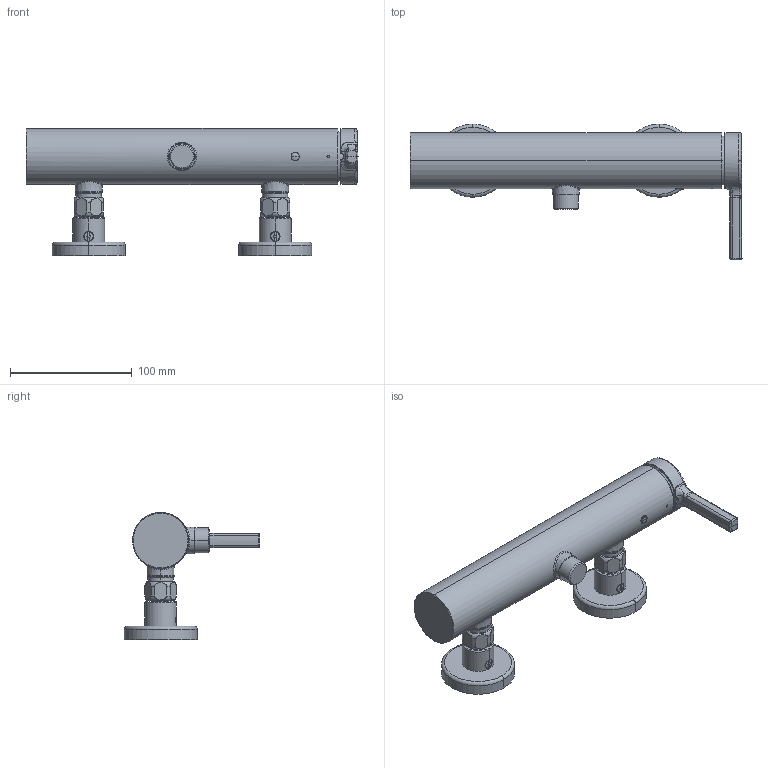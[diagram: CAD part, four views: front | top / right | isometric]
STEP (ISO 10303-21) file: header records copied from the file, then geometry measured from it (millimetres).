
FILE_DESCRIPTION((''),'2;1');
FILE_NAME('AVA_2_0_CH','2020-07-31T11:24:31',('DB991'),(''),'CREO PARAMETRIC BY PTC INC, 2018500','CREO PARAMETRIC BY PTC INC, 2018500','');
FILE_SCHEMA(('CONFIG_CONTROL_DESIGN'));
Length unit declared in the file: millimetre
Products named in the file (1): AVA_2_0_CH
Bounding box: 272.49 x 111.5 x 104.3 mm (x, y, z)
Volume: 566608 mm3; surface area: 72826.7 mm2
Topology: 1 solids, 1 shells, 401 faces, 990 edges, 614 vertices
Faces by surface type: plane 122, cylinder 97, bspline 82, torus 68, cone 24, sphere 8
Entity records: 21412 total; most frequent: CARTESIAN_POINT 12513, ORIENTED_EDGE 1972, DIRECTION 1687, EDGE_CURVE 986, AXIS2_PLACEMENT_3D 694, VERTEX_POINT 614, EDGE_LOOP 432, FACE_OUTER_BOUND 401
